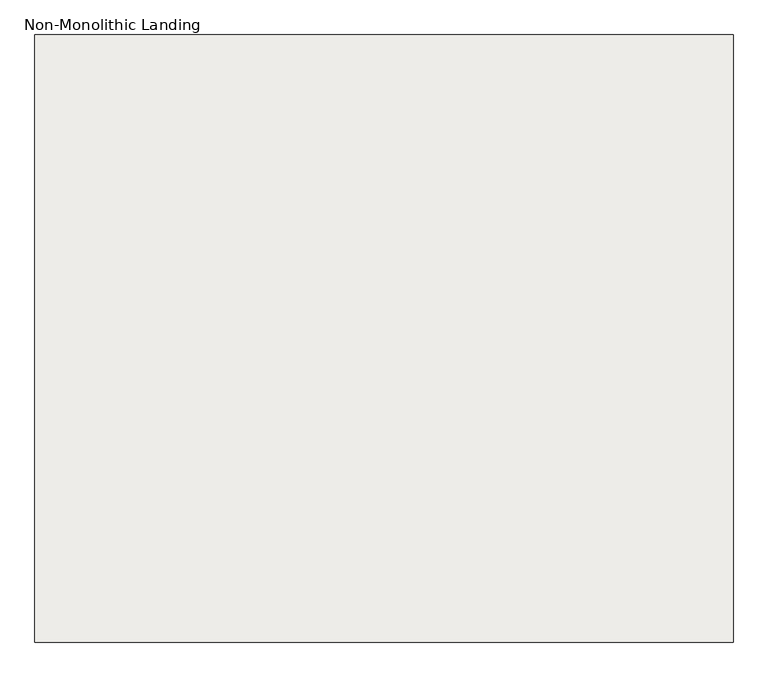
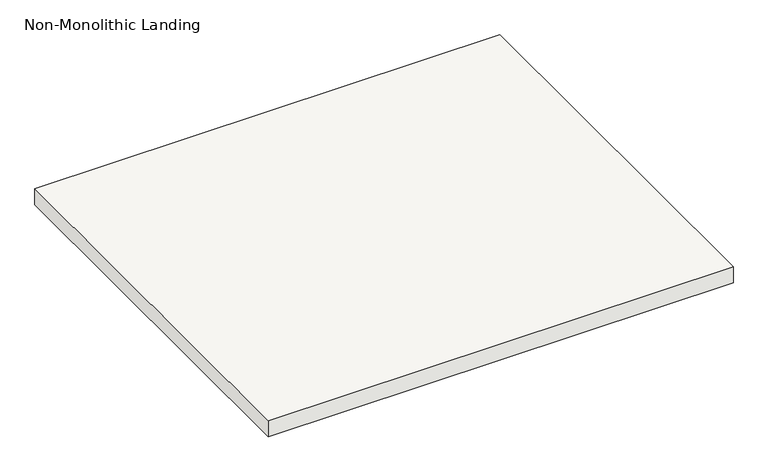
"""IFC4 building model written with IfcOpenShell, lengths in millimetres: slab geometry, Non-Monolithic Landing."""

from ifc_helpers import new_model, si_unit, frame, origin, place, context, project, spatial, polyline, outline, extrude, source, transform, mapped, element, save


def non_monolithic_landing_d349593f(model_context):
    return source(origin(), model_context, "Body", "SweptSolid", [
        extrude(outline(polyline([(-79497.1407976, 10139.2777512), (-80877.1407976, 10139.2777512), (-80877.1407976, 11339.2777512), (-79497.1407976, 11339.2777512), (-79497.1407976, 10139.2777512)])), frame((0.0, 0.0, 45959.7115278), z_axis=(0.0, 0.0, 1.0), x_axis=(1.0, 0.0, 0.0)), (0.0, 0.0, 1.0), 50.0),
    ])


if __name__ == "__main__":
    model = new_model("IFC4")
    model_context = context("Model", 3, world=origin())
    ifc_project = project(units=[si_unit("LENGTHUNIT", "METRE", prefix="MILLI")], contexts=[model_context])
    site = spatial("IfcSite", under=ifc_project)
    building = spatial("IfcBuilding", under=site)
    placement = place(None, origin())
    non_monolithic_landing_shape = non_monolithic_landing_d349593f(model_context)
    element("IfcSlab", 1, ObjectType="Non-Monolithic Landing", at=placement, inside=building, context=model_context, shape_type="MappedRepresentation", body=[
        mapped(non_monolithic_landing_shape, transform((0.0, 0.0, 0.0), x_axis=(1.0, 0.0, 0.0), y_axis=(0.0, 1.0, 0.0), z_axis=(0.0, 0.0, 1.0))),
    ])
    save(model, "model.ifc")
